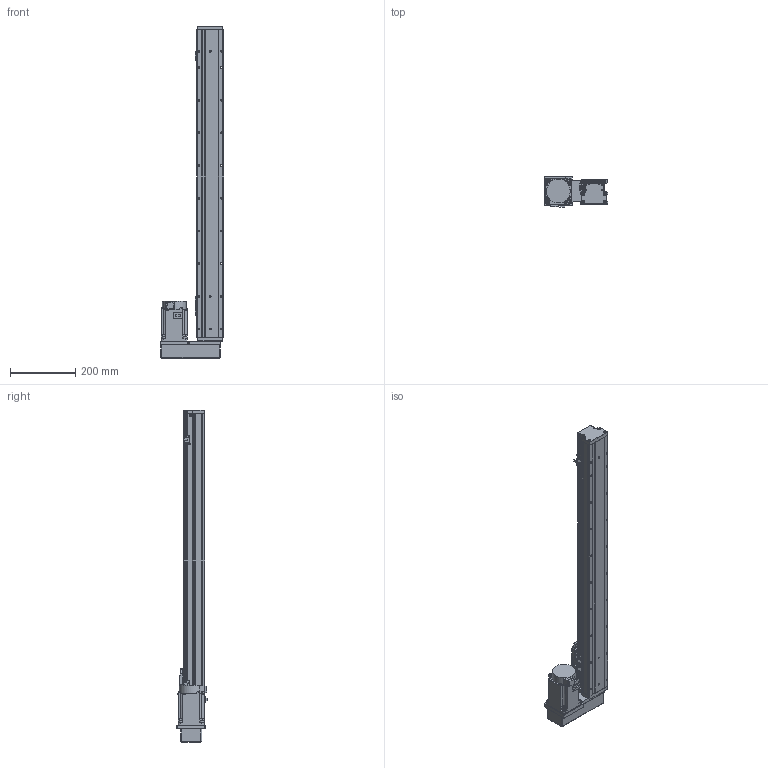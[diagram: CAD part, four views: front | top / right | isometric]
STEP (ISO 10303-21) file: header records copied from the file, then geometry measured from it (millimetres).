
FILE_DESCRIPTION (( 'STEP AP203' ), '1' );
FILE_NAME ('GTH8-750-BL-M75-C4.step', '2023-02-14T02:25:25', ( '微软用户' ), ( '微软中国' ), 'SwSTEP 2.0', 'SolidWorks 2020', '' );
FILE_SCHEMA (( 'CONFIG_CONTROL_DESIGN' ));
Length unit declared in the file: millimetre
Products named in the file (18): GTH80-003; GBT 70.1-M4×16; CTHA86-035; GTH80-004; GTH80-028; hg-kn73j_-s100; GTH80-006; GTH50-024; GTH8-750-BL-M75-C4; GTH80-013; GTH50-023; GBT 70.3-M3℅6; GBT96.1-2002 3×0.8; GTH80-022; BTH-M3X5X6; GTH80-001_750; GBT 70.1-M3℅6; CTHA86-015-3_CTHA86-015-4
Assembly tree (57 placements, depth 2):
  GTH8-750-BL-M75-C4
    GTH80-001_750
    GTH80-003
    GTH80-004
    GTH80-006
    GTH80-013
    GBT 70.3-M3℅6  x4
    GTH80-022
    GBT 70.1-M3℅6  x14
    GBT 70.1-M4×16  x8
    GTH80-028  x2
    GTH50-024  x3
    GTH50-023  x3
    GBT96.1-2002 3×0.8  x6
    BTH-M3X5X6  x8
    CTHA86-015-3_CTHA86-015-4
    CTHA86-035
    hg-kn73j_-s100
Bounding box: 193.5 x 92.3 x 1016 mm (x, y, z)
Volume: 5614771.3 mm3; surface area: 556311.3 mm2
Topology: 59 solids, 59 shells, 2203 faces, 5118 edges, 3136 vertices
Faces by surface type: plane 1153, cylinder 635, cone 243, torus 158, sphere 12, bspline 2
Entity records: 39884 total; most frequent: CARTESIAN_POINT 6695, DIRECTION 6585, ORIENTED_EDGE 6046, EDGE_CURVE 3023, AXIS2_PLACEMENT_3D 2326, VECTOR 1933, LINE 1933, VERTEX_POINT 1911
